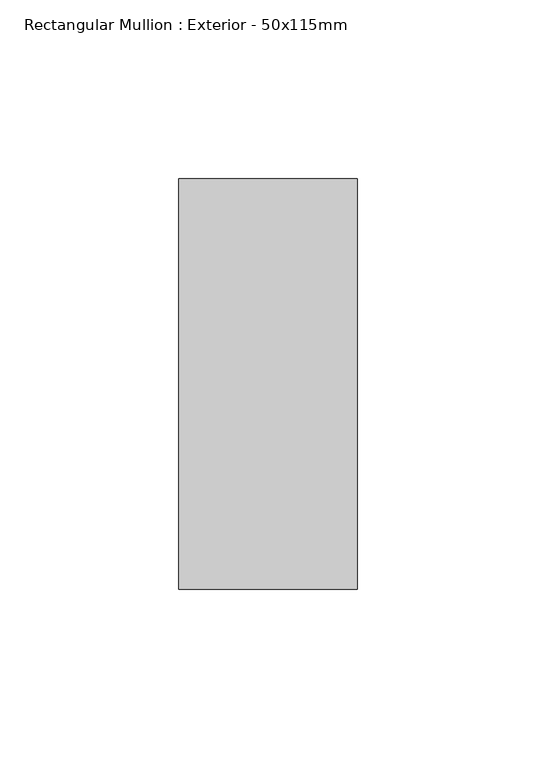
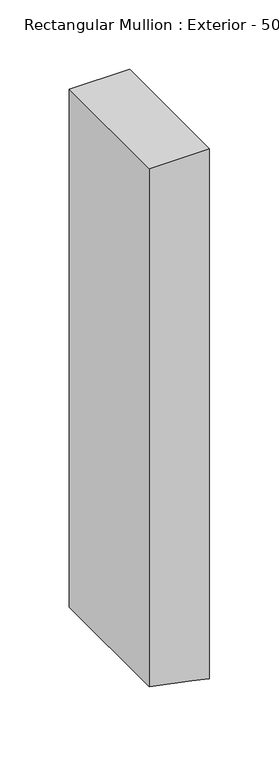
"""IFC4 building model written with IfcOpenShell, lengths in millimetres: member geometry, Rectangular Mullion : Exterior - 50x115mm."""

import ifcopenshell
import ifcopenshell.guid

model = None  # the IFC model being written
_history = None  # IfcOwnerHistory: only IFC2X3 demands one
_inside = {}  # id of a spatial element -> (the spatial element, [elements in it])
_under = {}  # id of a project, library or spatial element -> (it, [spatial elements below it])
_declared = {}  # id of a project -> (the project, [libraries it declares])
_typed = {}  # id of a type object -> (the type object, [elements of that type])
_made_of = {}  # id of a material, layer set ... -> (it, [elements and type objects made of it])


def new_model(schema):
    """Start an empty IFC model of exactly this schema.

    Asked for "IFC4X3", IfcOpenShell would pick the latest addendum, in which some entities
    have other attributes; the version numbers below select the first issue.
    IFC2X3 requires an IfcOwnerHistory on every rooted entity: one is made here for all.
    """
    global model, _history
    if schema == "IFC4X3":
        model = ifcopenshell.file(schema_version=(4, 3, 0, 0))
    else:
        model = ifcopenshell.file(schema=schema)
    _inside.clear()
    _under.clear()
    _declared.clear()
    _typed.clear()
    _made_of.clear()
    _history = None
    if model.schema == "IFC2X3":
        org = make("IfcOrganization", Name="unknown")
        user = make(
            "IfcPersonAndOrganization",
            ThePerson=make("IfcPerson", FamilyName="unknown"),
            TheOrganization=org,
        )
        app = make(
            "IfcApplication",
            ApplicationDeveloper=org,
            Version="unknown",
            ApplicationFullName="unknown",
            ApplicationIdentifier="unknown",
        )
        _history = make(
            "IfcOwnerHistory",
            OwningUser=user,
            OwningApplication=app,
            ChangeAction="ADDED",
            CreationDate=0,
        )
    return model


def make(cls, **values):
    """One entity of the class cls with the attributes given. An attribute that is None is left unset."""
    return model.create_entity(
        cls, **{name: value for name, value in values.items() if value is not None}
    )


def rooted(cls, **values):
    """An entity with a GlobalId (a new one), such as an element, a storey or a relation."""
    return make(cls, GlobalId=ifcopenshell.guid.new(), OwnerHistory=_history, **values)


def si_unit(unit_type, name, prefix=None):
    """IfcSIUnit, for example si_unit("LENGTHUNIT", "METRE", prefix="MILLI")."""
    return make("IfcSIUnit", UnitType=unit_type, Prefix=prefix, Name=name)


def assignment(units):
    """IfcUnitAssignment: the units of a project."""
    return None if units is None else make("IfcUnitAssignment", Units=units)


def point(xyz):
    """IfcCartesianPoint."""
    return None if xyz is None else make("IfcCartesianPoint", Coordinates=xyz)


def direction(xyz):
    """IfcDirection."""
    return None if xyz is None else make("IfcDirection", DirectionRatios=xyz)


def frame(location, z_axis=None, x_axis=None):
    """IfcAxis2Placement3D, a coordinate frame: its origin and axes. An axis left out is left unset."""
    return make(
        "IfcAxis2Placement3D",
        Location=point(location),
        Axis=direction(z_axis),
        RefDirection=direction(x_axis),
    )


def origin():
    """The frame at (0, 0, 0) with its axes left unset."""
    return frame((0.0, 0.0, 0.0))


def place(relative_to, where):
    """IfcLocalPlacement: puts the frame where relative to a parent placement (None: the world)."""
    return make(
        "IfcLocalPlacement", PlacementRelTo=relative_to, RelativePlacement=where
    )


def context(
    kind, dimensions, precision=None, world=None, true_north=None, identifier=None
):
    """IfcGeometricRepresentationContext, for example the 3D "Model" context."""
    return make(
        "IfcGeometricRepresentationContext",
        ContextIdentifier=identifier,
        ContextType=kind,
        CoordinateSpaceDimension=dimensions,
        Precision=precision,
        WorldCoordinateSystem=world,
        TrueNorth=true_north,
    )


def project(units=None, contexts=None):
    """IfcProject with its units and contexts."""
    return rooted(
        "IfcProject",
        Name="project",
        RepresentationContexts=contexts,
        UnitsInContext=assignment(units),
    )


def spatial(cls, under=None, at=None, **own):
    """A site, building, storey or space (cls), placed at a placement, below another one or the project."""
    s = rooted(cls, ObjectPlacement=at, **own)
    if under is not None:
        _under.setdefault(under.id(), (under, []))[1].append(s)
    return s


def polyline(points):
    """IfcPolyline through the points."""
    return make("IfcPolyline", Points=[point(p) for p in points])


def outline(outer, holes=None, kind="AREA"):
    """IfcArbitraryClosedProfileDef: a profile drawn as a closed curve; with holes, ...WithVoids."""
    if holes is None:
        return make("IfcArbitraryClosedProfileDef", ProfileType=kind, OuterCurve=outer)
    return make(
        "IfcArbitraryProfileDefWithVoids",
        ProfileType=kind,
        OuterCurve=outer,
        InnerCurves=holes,
    )


def extrude(swept, where, along, depth):
    """IfcExtrudedAreaSolid: the profile swept, set in the frame where, extruded along a direction by depth."""
    return make(
        "IfcExtrudedAreaSolid",
        SweptArea=swept,
        Position=where,
        ExtrudedDirection=direction(along),
        Depth=depth,
    )


def shape(context_of_items, identifier, shape_type, items):
    """IfcShapeRepresentation: the items that make up one representation, for example the "Body"."""
    return make(
        "IfcShapeRepresentation",
        ContextOfItems=context_of_items,
        RepresentationIdentifier=identifier,
        RepresentationType=shape_type,
        Items=items,
    )


def source(mapping_origin, context_of_items, identifier, shape_type, items):
    """IfcRepresentationMap: a shape defined once, which mapped items show again and again."""
    return make(
        "IfcRepresentationMap",
        MappingOrigin=mapping_origin,
        MappedRepresentation=shape(context_of_items, identifier, shape_type, items),
    )


def transform(
    local_origin,
    x_axis=None,
    y_axis=None,
    z_axis=None,
    scale=None,
    scale2=None,
    scale3=None,
    uniform=True,
):
    """IfcCartesianTransformationOperator3D, or its non-uniform kind. x_axis, y_axis, z_axis: its Axis1, 2, 3."""
    if uniform:
        return make(
            "IfcCartesianTransformationOperator3D",
            Axis1=direction(x_axis),
            Axis2=direction(y_axis),
            LocalOrigin=point(local_origin),
            Scale=scale,
            Axis3=direction(z_axis),
        )
    return make(
        "IfcCartesianTransformationOperator3DnonUniform",
        Axis1=direction(x_axis),
        Axis2=direction(y_axis),
        LocalOrigin=point(local_origin),
        Scale=scale,
        Axis3=direction(z_axis),
        Scale2=scale2,
        Scale3=scale3,
    )


def mapped(mapping_source, mapping_target):
    """IfcMappedItem: shows the shape of a source again, moved by a transform."""
    return make(
        "IfcMappedItem", MappingSource=mapping_source, MappingTarget=mapping_target
    )


def made_of(thing, what):
    """Note that an element or type object is made of a material, layer set ...; save() writes the relation."""
    if what is not None:
        _made_of.setdefault(what.id(), (what, []))[1].append(thing)
    return thing


def element(
    cls,
    number,
    at=None,
    inside=None,
    cuts=None,
    type_object=None,
    material=None,
    context=None,
    identifier="Body",
    shape_type=None,
    held_by="IfcProductDefinitionShape",
    body=None,
    shapes=None,
    **own,
):
    """One element of the class cls, such as IfcWall. Its Tag is "e" and its number.

    at: its placement. inside: the storey or other place that contains it. cuts: it is an
    opening in that element (IfcRelVoidsElement). A single representation is given by context,
    identifier, shape_type and body (its items); several are given by shapes. held_by: the class
    of the entity that holds the representations. save() writes the other relations.
    """
    e = rooted(cls, Tag="e%d" % number, ObjectPlacement=at, **own)
    if body is not None:
        shapes = [shape(context, identifier, shape_type, body)]
    if shapes is not None:
        e.Representation = make(held_by, Representations=shapes)
    if inside is not None:
        _inside.setdefault(inside.id(), (inside, []))[1].append(e)
    if cuts is not None:
        rooted(
            "IfcRelVoidsElement", RelatingBuildingElement=cuts, RelatedOpeningElement=e
        )
    if type_object is not None:
        _typed.setdefault(type_object.id(), (type_object, []))[1].append(e)
    return made_of(e, material)


def aggregate(whole, parts):
    """IfcRelAggregates: a whole, such as a stair, and the parts it consists of."""
    return rooted("IfcRelAggregates", RelatingObject=whole, RelatedObjects=parts)


def save(model, path):
    """Write the relations noted so far, then the file.

    IfcRelAggregates (storeys below a building ...), IfcRelContainedInSpatialStructure (elements
    in a storey), IfcRelDefinesByType, IfcRelAssociatesMaterial and IfcRelDeclares: one each for
    every whole, place, type object, material and project.
    """
    for whole, parts in _under.values():
        aggregate(whole, parts)
    for where, things in _inside.values():
        rooted(
            "IfcRelContainedInSpatialStructure",
            RelatedElements=things,
            RelatingStructure=where,
        )
    for kind, things in _typed.values():
        rooted("IfcRelDefinesByType", RelatedObjects=things, RelatingType=kind)
    for what, things in _made_of.values():
        rooted("IfcRelAssociatesMaterial", RelatedObjects=things, RelatingMaterial=what)
    for by, libraries in _declared.values():
        rooted("IfcRelDeclares", RelatingContext=by, RelatedDefinitions=libraries)
    model.write(path)


def rectangular_mullion_exterior_50x115mm_637f70d5(model_context):
    return source(origin(), model_context, "Body", "SweptSolid", [
        extrude(outline(polyline([(0.0, 25.0), (0.0, -25.0), (-455.4115111, -25.0), (-462.9350749, 10.3955845), (-466.0393392, 25.0), (0.0, 25.0)])), frame((0.0, 0.0, 0.0), z_axis=(0.0, 1.0, 0.0), x_axis=(0.0, 0.0, 1.0)), (0.0, 0.0, 1.0), 115.0),
    ])


if __name__ == "__main__":
    model = new_model("IFC4")
    model_context = context("Model", 3, world=origin())
    ifc_project = project(units=[si_unit("LENGTHUNIT", "METRE", prefix="MILLI")], contexts=[model_context])
    site = spatial("IfcSite", under=ifc_project)
    building = spatial("IfcBuilding", under=site)
    placement = place(None, origin())
    rectangular_mullion_exterior_50x115mm_shape = rectangular_mullion_exterior_50x115mm_637f70d5(model_context)
    element("IfcMember", 1, ObjectType="Rectangular Mullion : Exterior - 50x115mm", at=placement, inside=building, context=model_context, shape_type="MappedRepresentation", body=[
        mapped(rectangular_mullion_exterior_50x115mm_shape, transform((0.0, 0.0, 0.0), x_axis=(1.0, 0.0, 0.0), y_axis=(0.0, 1.0, 0.0), z_axis=(0.0, 0.0, 1.0))),
    ])
    save(model, "model.ifc")
